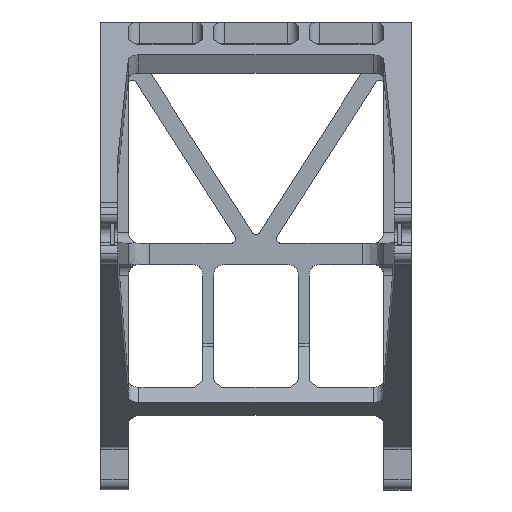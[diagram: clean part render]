
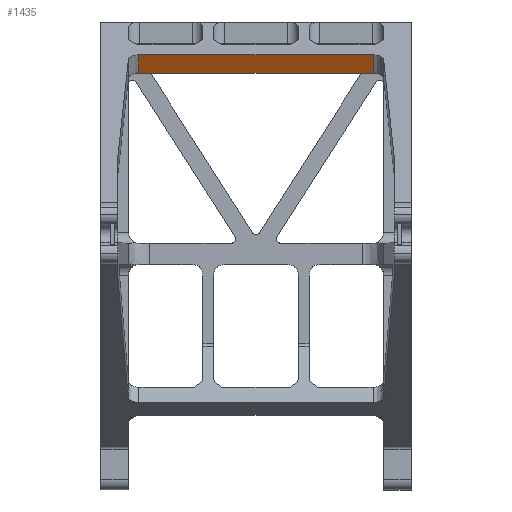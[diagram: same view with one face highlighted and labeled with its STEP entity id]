
A CAD part, top view. The second image highlights one B-rep face of the part: STEP entity #1435.
In plain terms, the highlighted planar face has unit normal (0, -0.496, 0.869) as drawn and (0, 0.868, 0.496) by its records, which use the part's own axes.
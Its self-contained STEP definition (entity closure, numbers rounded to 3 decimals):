
#476 = EDGE_CURVE ( 'NONE', #6725, #6029, #4214, .T. ) ;
#588 = CARTESIAN_POINT ( 'NONE',  ( -55.016, 34.555, -80.127 ) ) ;
#590 = EDGE_CURVE ( 'NONE', #1118, #7296, #1723, .T. ) ;
#625 = CARTESIAN_POINT ( 'NONE',  ( 55.034, 35.395, -81.598 ) ) ;
#1108 = EDGE_LOOP ( 'NONE', ( #2629, #3448, #3433, #5799 ) ) ;
#1118 = VERTEX_POINT ( 'NONE', #7258 ) ;
#1222 = CARTESIAN_POINT ( 'NONE',  ( 55.036, 32.117, -75.856 ) ) ;
#1435 = ADVANCED_FACE ( 'NONE', ( #3699 ), #5632, .F. ) ;
#1723 = B_SPLINE_CURVE_WITH_KNOTS ( 'NONE', 3,
 ( #5517, #4902, #4320, #588, #2517, #4399, #3722 ),
 .UNSPECIFIED., .F., .F.,
 ( 4, 3, 4 ),
 ( 0., 0.005, 0.01 ),
 .UNSPECIFIED. ) ;
#1807 = CARTESIAN_POINT ( 'NONE',  ( 55.027, 37.074, -84.541 ) ) ;
#1844 = CARTESIAN_POINT ( 'NONE',  ( 25.01, 32.117, -75.856 ) ) ;
#1867 = CARTESIAN_POINT ( 'NONE',  ( 55.036, 34.555, -80.127 ) ) ;
#2044 = DIRECTION ( 'NONE',  ( 0., 0.496, -0.868 ) ) ;
#2517 = CARTESIAN_POINT ( 'NONE',  ( -55.014, 35.395, -81.598 ) ) ;
#2629 = ORIENTED_EDGE ( 'NONE', *, *, #3124, .F. ) ;
#2678 = CARTESIAN_POINT ( 'NONE',  ( 25.01, 32.117, -75.856 ) ) ;
#3124 = EDGE_CURVE ( 'NONE', #6725, #1118, #7047, .T. ) ;
#3432 = EDGE_CURVE ( 'NONE', #6029, #7296, #7245, .T. ) ;
#3433 = ORIENTED_EDGE ( 'NONE', *, *, #3432, .T. ) ;
#3448 = ORIENTED_EDGE ( 'NONE', *, *, #476, .T. ) ;
#3699 = FACE_OUTER_BOUND ( 'NONE', #1108, .T. ) ;
#3712 = CARTESIAN_POINT ( 'NONE',  ( 55.027, 37.074, -84.541 ) ) ;
#3722 = CARTESIAN_POINT ( 'NONE',  ( -55.007, 37.074, -84.541 ) ) ;
#4214 = B_SPLINE_CURVE_WITH_KNOTS ( 'NONE', 3,
 ( #1222, #6129, #6787, #1867, #625, #4978, #1807 ),
 .UNSPECIFIED., .F., .F.,
 ( 4, 3, 4 ),
 ( 0., 0.005, 0.01 ),
 .UNSPECIFIED. ) ;
#4320 = CARTESIAN_POINT ( 'NONE',  ( -55.017, 33.742, -78.703 ) ) ;
#4399 = CARTESIAN_POINT ( 'NONE',  ( -55.011, 36.234, -83.069 ) ) ;
#4485 = DIRECTION ( 'NONE',  ( 0., -0.868, -0.496 ) ) ;
#4658 = AXIS2_PLACEMENT_3D ( 'NONE', #2678, #4485, #2044 ) ;
#4706 = CARTESIAN_POINT ( 'NONE',  ( 25.01, 37.074, -84.541 ) ) ;
#4902 = CARTESIAN_POINT ( 'NONE',  ( -55.017, 32.929, -77.28 ) ) ;
#4978 = CARTESIAN_POINT ( 'NONE',  ( 55.031, 36.234, -83.069 ) ) ;
#5484 = DIRECTION ( 'NONE',  ( -1., 0., 0. ) ) ;
#5517 = CARTESIAN_POINT ( 'NONE',  ( -55.016, 32.117, -75.856 ) ) ;
#5632 = PLANE ( 'NONE',  #4658 ) ;
#5799 = ORIENTED_EDGE ( 'NONE', *, *, #590, .F. ) ;
#6029 = VERTEX_POINT ( 'NONE', #3712 ) ;
#6129 = CARTESIAN_POINT ( 'NONE',  ( 55.037, 32.929, -77.28 ) ) ;
#6704 = CARTESIAN_POINT ( 'NONE',  ( 55.036, 32.117, -75.856 ) ) ;
#6725 = VERTEX_POINT ( 'NONE', #6704 ) ;
#6787 = CARTESIAN_POINT ( 'NONE',  ( 55.037, 33.742, -78.703 ) ) ;
#7033 = VECTOR ( 'NONE', #7769, 1000. ) ;
#7047 = LINE ( 'NONE', #1844, #7461 ) ;
#7226 = CARTESIAN_POINT ( 'NONE',  ( -55.007, 37.074, -84.541 ) ) ;
#7245 = LINE ( 'NONE', #4706, #7033 ) ;
#7258 = CARTESIAN_POINT ( 'NONE',  ( -55.016, 32.117, -75.856 ) ) ;
#7296 = VERTEX_POINT ( 'NONE', #7226 ) ;
#7461 = VECTOR ( 'NONE', #5484, 1000. ) ;
#7769 = DIRECTION ( 'NONE',  ( -1., 0., 0. ) ) ;
